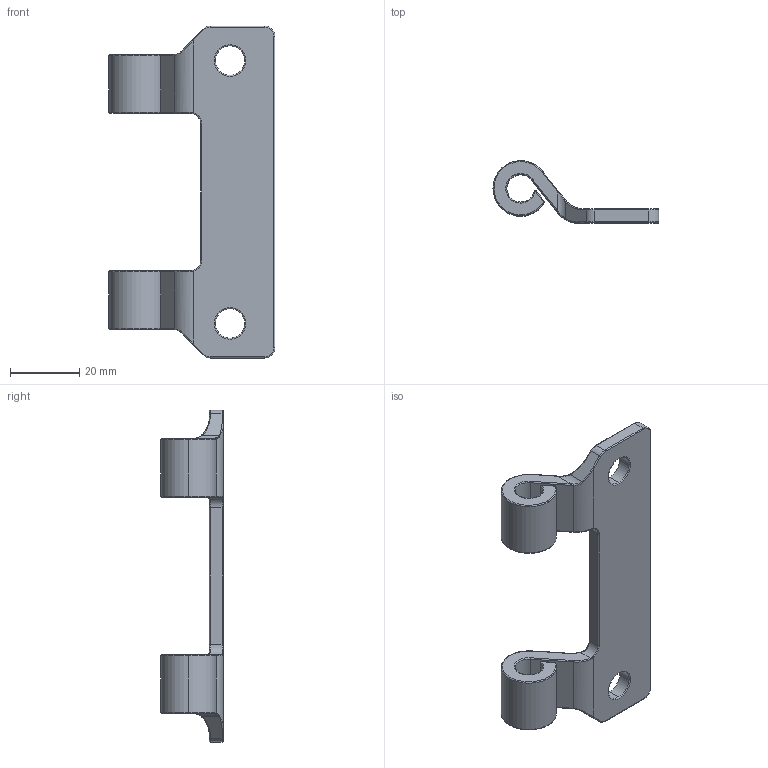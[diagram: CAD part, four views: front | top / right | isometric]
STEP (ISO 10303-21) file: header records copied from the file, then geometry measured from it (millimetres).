
FILE_DESCRIPTION (( 'STEP AP203' ), '1' );
FILE_NAME ('ART188.0.STEP', '2018-07-09T00:42:36', ( '' ), ( '' ), 'SwSTEP 2.0', 'SolidWorks 2018', '' );
FILE_SCHEMA (( 'CONFIG_CONTROL_DESIGN' ));
Length unit declared in the file: millimetre
Products named in the file (1): ART188.0
Bounding box: 48 x 17.98 x 96 mm (x, y, z)
Volume: 14883.1 mm3; surface area: 9242.3 mm2
Topology: 1 solids, 1 shells, 171 faces, 418 edges, 248 vertices
Faces by surface type: cylinder 52, plane 41, bspline 34, torus 32, sphere 12
Entity records: 6221 total; most frequent: CARTESIAN_POINT 2320, ORIENTED_EDGE 820, DIRECTION 790, EDGE_CURVE 410, AXIS2_PLACEMENT_3D 310, VERTEX_POINT 244, EDGE_LOOP 178, CIRCLE 172
